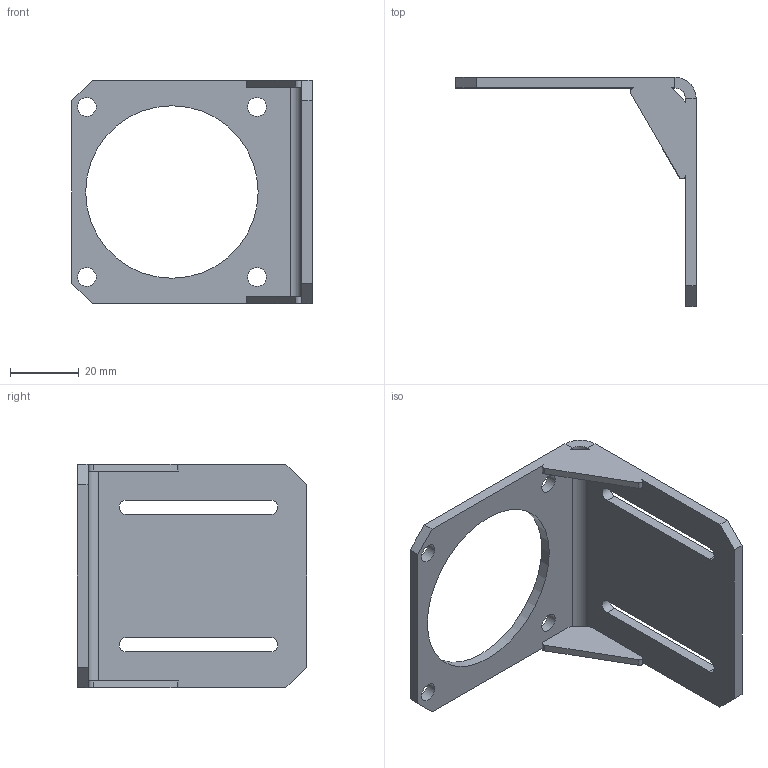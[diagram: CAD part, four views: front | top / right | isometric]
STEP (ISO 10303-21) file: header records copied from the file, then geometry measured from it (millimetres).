
FILE_DESCRIPTION(/* description */ (''),/* implementation_level */ '2;1');
FILE_NAME(/* name */ 'C:\Users\Lukas\Documents\Inventor\Rocketronics Teile\NEMA 24 Winkel.stp',/* time_stamp */ '2026-03-17T17:07:52+01:00',/* author */ ('Lukas'),/* organization */ (''),/* preprocessor_version */ 'ST-DEVELOPER v19',/* originating_system */ 'Autodesk Inventor 2023',/* authorisation */ '');
FILE_SCHEMA (('AUTOMOTIVE_DESIGN { 1 0 10303 214 3 1 1 }'));
Length unit declared in the file: millimetre
Products named in the file (1): NEMA 24 Winkel
Bounding box: 70 x 66.7 x 65.1 mm (x, y, z)
Volume: 19666.2 mm3; surface area: 15524.8 mm2
Topology: 1 solids, 1 shells, 39 faces, 115 edges, 74 vertices
Faces by surface type: plane 24, cylinder 15
Full cylindrical faces by diameter (mm): 5.45 x4, 50.2 x1
Entity records: 1374 total; most frequent: ORIENTED_EDGE 230, CARTESIAN_POINT 229, DIRECTION 225, EDGE_CURVE 115, LINE 85, VECTOR 85, VERTEX_POINT 74, AXIS2_PLACEMENT_3D 70
